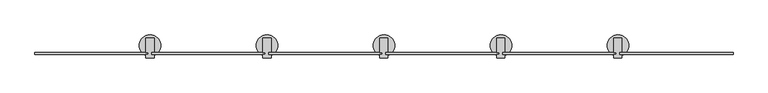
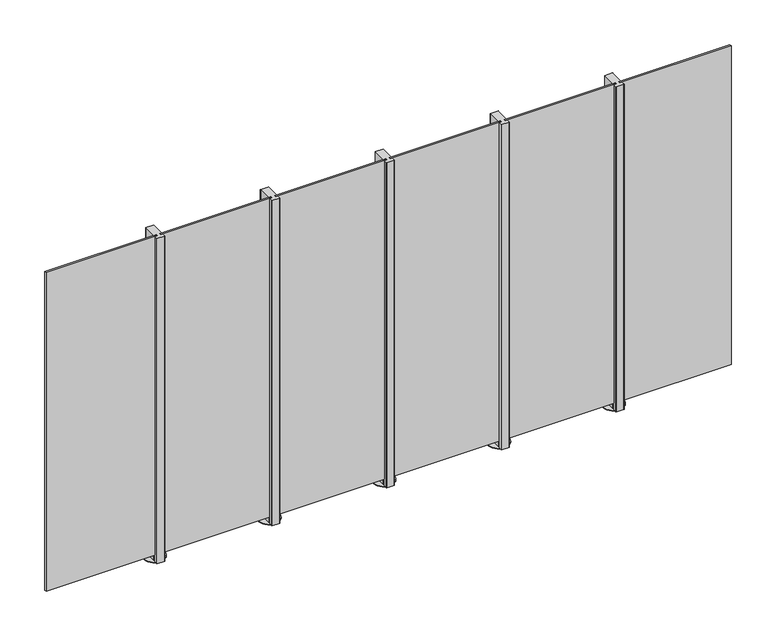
"""IFC4 building model written with IfcOpenShell, lengths in millimetres: railing geometry, TOP CONCRETE CORE_TOP MOUNT STRUC_GLASS_8'."""

from ifc_helpers import new_model, si_unit, point, frame, frame_2d, origin, origin_with_axes, place, context, project, spatial, polyline, circle_curve, trimmed, segment, composite_curve, outline, extrude, source, transform, mapped, element, save


def railing_44f263d3(model_context):
    return source(origin(), model_context, "Body", "SweptSolid", [
        extrude(outline(polyline([(93085.9101265, -69424.6903244), (93873.3101265, -69424.6903244), (93873.3101265, -69437.3903244), (93085.9101265, -69437.3903244), (93085.9101265, -69424.6903244)])), frame((0.0, 0.0, 50.8), z_axis=(0.0, 0.0, 1.0), x_axis=(1.0, 0.0, 0.0)), (0.0, 0.0, 1.0), 2387.6),
        extrude(outline(composite_curve([segment(trimmed(circle_curve(frame_2d((93073.2101265, -69376.6664948)), 75.6503116), [point((93073.2101265, -69452.3168064))], [point((93073.2101265, -69301.0161831))], False, "CARTESIAN"), True, "CONTINUOUS"), segment(trimmed(circle_curve(frame_2d((93073.2101265, -69376.6664948)), 75.6503116), [point((93073.2101265, -69301.0161831))], [point((93073.2101265, -69452.3168064))], False, "CARTESIAN"), True, "CONTINUOUS")], self_intersect=False)), origin_with_axes(), (0.0, 0.0, 1.0), 3.0),
        extrude(outline(composite_curve([segment(polyline([(93100.9984734, -69424.6903244), (93085.9101265, -69424.6903244), (93085.9101265, -69437.3903244), (93100.9984734, -69437.3903244), (93100.9984734, -69462.2901674)]), True, "CONTINUOUS"), segment(trimmed(circle_curve(frame_2d((93100.4984734, -69462.2901674)), 0.5), [point((93100.9984734, -69462.2901674))], [point((93100.4984734, -69462.7901674))], False, "CARTESIAN"), True, "CONTINUOUS"), segment(polyline([(93100.4984734, -69462.7901674), (93044.3484734, -69462.7901674)]), True, "CONTINUOUS"), segment(trimmed(circle_curve(frame_2d((93044.3484734, -69462.2901674)), 0.5), [point((93044.3484734, -69462.7901674))], [point((93043.8484734, -69462.2901674))], False, "CARTESIAN"), True, "CONTINUOUS"), segment(polyline([(93043.8484734, -69462.2901674), (93043.8484734, -69437.3903244), (93060.5101265, -69437.3903244), (93060.5101265, -69424.6903244), (93043.8484734, -69424.6903244), (93043.8484734, -69325.6661674)]), True, "CONTINUOUS"), segment(trimmed(circle_curve(frame_2d((93044.3484734, -69325.6661674)), 0.5), [point((93043.8484734, -69325.6661674))], [point((93044.3484734, -69325.1661674))], False, "CARTESIAN"), True, "CONTINUOUS"), segment(polyline([(93044.3484734, -69325.1661674), (93100.4984734, -69325.1661674)]), True, "CONTINUOUS"), segment(trimmed(circle_curve(frame_2d((93100.4984734, -69325.6661674)), 0.5), [point((93100.4984734, -69325.1661674))], [point((93100.9984734, -69325.6661674))], False, "CARTESIAN"), True, "CONTINUOUS"), segment(polyline([(93100.9984734, -69325.6661674), (93100.9984734, -69424.6903244)]), True, "CONTINUOUS")], self_intersect=False)), origin_with_axes(), (0.0, 0.0, 1.0), 2438.4),
        extrude(outline(polyline([(92273.1101265, -69424.6903244), (93060.5101265, -69424.6903244), (93060.5101265, -69437.3903244), (92273.1101265, -69437.3903244), (92273.1101265, -69424.6903244)])), frame((0.0, 0.0, 50.8), z_axis=(0.0, 0.0, 1.0), x_axis=(1.0, 0.0, 0.0)), (0.0, 0.0, 1.0), 2387.6),
        extrude(outline(composite_curve([segment(trimmed(circle_curve(frame_2d((92260.4101265, -69376.6664948)), 75.6503116), [point((92260.4101265, -69452.3168064))], [point((92260.4101265, -69301.0161831))], False, "CARTESIAN"), True, "CONTINUOUS"), segment(trimmed(circle_curve(frame_2d((92260.4101265, -69376.6664948)), 75.6503116), [point((92260.4101265, -69301.0161831))], [point((92260.4101265, -69452.3168064))], False, "CARTESIAN"), True, "CONTINUOUS")], self_intersect=False)), origin_with_axes(), (0.0, 0.0, 1.0), 3.0),
        extrude(outline(composite_curve([segment(polyline([(92288.1984734, -69424.6903244), (92273.1101265, -69424.6903244), (92273.1101265, -69437.3903244), (92288.1984734, -69437.3903244), (92288.1984734, -69462.2901674)]), True, "CONTINUOUS"), segment(trimmed(circle_curve(frame_2d((92287.6984734, -69462.2901674)), 0.5), [point((92288.1984734, -69462.2901674))], [point((92287.6984734, -69462.7901674))], False, "CARTESIAN"), True, "CONTINUOUS"), segment(polyline([(92287.6984734, -69462.7901674), (92231.5484734, -69462.7901674)]), True, "CONTINUOUS"), segment(trimmed(circle_curve(frame_2d((92231.5484734, -69462.2901674)), 0.5), [point((92231.5484734, -69462.7901674))], [point((92231.0484734, -69462.2901674))], False, "CARTESIAN"), True, "CONTINUOUS"), segment(polyline([(92231.0484734, -69462.2901674), (92231.0484734, -69437.3903244), (92247.7101265, -69437.3903244), (92247.7101265, -69424.6903244), (92231.0484734, -69424.6903244), (92231.0484734, -69325.6661674)]), True, "CONTINUOUS"), segment(trimmed(circle_curve(frame_2d((92231.5484734, -69325.6661674)), 0.5), [point((92231.0484734, -69325.6661674))], [point((92231.5484734, -69325.1661674))], False, "CARTESIAN"), True, "CONTINUOUS"), segment(polyline([(92231.5484734, -69325.1661674), (92287.6984734, -69325.1661674)]), True, "CONTINUOUS"), segment(trimmed(circle_curve(frame_2d((92287.6984734, -69325.6661674)), 0.5), [point((92287.6984734, -69325.1661674))], [point((92288.1984734, -69325.6661674))], False, "CARTESIAN"), True, "CONTINUOUS"), segment(polyline([(92288.1984734, -69325.6661674), (92288.1984734, -69424.6903244)]), True, "CONTINUOUS")], self_intersect=False)), origin_with_axes(), (0.0, 0.0, 1.0), 2438.4),
        extrude(outline(polyline([(91460.3101265, -69424.6903244), (92247.7101265, -69424.6903244), (92247.7101265, -69437.3903244), (91460.3101265, -69437.3903244), (91460.3101265, -69424.6903244)])), frame((0.0, 0.0, 50.8), z_axis=(0.0, 0.0, 1.0), x_axis=(1.0, 0.0, 0.0)), (0.0, 0.0, 1.0), 2387.6),
        extrude(outline(composite_curve([segment(trimmed(circle_curve(frame_2d((91447.6101265, -69376.6664948)), 75.6503116), [point((91447.6101265, -69452.3168064))], [point((91447.6101265, -69301.0161831))], False, "CARTESIAN"), True, "CONTINUOUS"), segment(trimmed(circle_curve(frame_2d((91447.6101265, -69376.6664948)), 75.6503116), [point((91447.6101265, -69301.0161831))], [point((91447.6101265, -69452.3168064))], False, "CARTESIAN"), True, "CONTINUOUS")], self_intersect=False)), origin_with_axes(), (0.0, 0.0, 1.0), 3.0),
        extrude(outline(composite_curve([segment(polyline([(91475.3984734, -69424.6903244), (91460.3101265, -69424.6903244), (91460.3101265, -69437.3903244), (91475.3984734, -69437.3903244), (91475.3984734, -69462.2901674)]), True, "CONTINUOUS"), segment(trimmed(circle_curve(frame_2d((91474.8984734, -69462.2901674)), 0.5), [point((91475.3984734, -69462.2901674))], [point((91474.8984734, -69462.7901674))], False, "CARTESIAN"), True, "CONTINUOUS"), segment(polyline([(91474.8984734, -69462.7901674), (91418.7484734, -69462.7901674)]), True, "CONTINUOUS"), segment(trimmed(circle_curve(frame_2d((91418.7484734, -69462.2901674)), 0.5), [point((91418.7484734, -69462.7901674))], [point((91418.2484734, -69462.2901674))], False, "CARTESIAN"), True, "CONTINUOUS"), segment(polyline([(91418.2484734, -69462.2901674), (91418.2484734, -69437.3903244), (91434.9101265, -69437.3903244), (91434.9101265, -69424.6903244), (91418.2484734, -69424.6903244), (91418.2484734, -69325.6661674)]), True, "CONTINUOUS"), segment(trimmed(circle_curve(frame_2d((91418.7484734, -69325.6661674)), 0.5), [point((91418.2484734, -69325.6661674))], [point((91418.7484734, -69325.1661674))], False, "CARTESIAN"), True, "CONTINUOUS"), segment(polyline([(91418.7484734, -69325.1661674), (91474.8984734, -69325.1661674)]), True, "CONTINUOUS"), segment(trimmed(circle_curve(frame_2d((91474.8984734, -69325.6661674)), 0.5), [point((91474.8984734, -69325.1661674))], [point((91475.3984734, -69325.6661674))], False, "CARTESIAN"), True, "CONTINUOUS"), segment(polyline([(91475.3984734, -69325.6661674), (91475.3984734, -69424.6903244)]), True, "CONTINUOUS")], self_intersect=False)), origin_with_axes(), (0.0, 0.0, 1.0), 2438.4),
        extrude(outline(polyline([(90647.5101265, -69424.6903244), (91434.9101265, -69424.6903244), (91434.9101265, -69437.3903244), (90647.5101265, -69437.3903244), (90647.5101265, -69424.6903244)])), frame((0.0, 0.0, 50.8), z_axis=(0.0, 0.0, 1.0), x_axis=(1.0, 0.0, 0.0)), (0.0, 0.0, 1.0), 2387.6),
        extrude(outline(composite_curve([segment(trimmed(circle_curve(frame_2d((90634.8101265, -69376.6664948)), 75.6503116), [point((90634.8101265, -69452.3168064))], [point((90634.8101265, -69301.0161831))], False, "CARTESIAN"), True, "CONTINUOUS"), segment(trimmed(circle_curve(frame_2d((90634.8101265, -69376.6664948)), 75.6503116), [point((90634.8101265, -69301.0161831))], [point((90634.8101265, -69452.3168064))], False, "CARTESIAN"), True, "CONTINUOUS")], self_intersect=False)), origin_with_axes(), (0.0, 0.0, 1.0), 3.0),
        extrude(outline(composite_curve([segment(polyline([(90662.5984734, -69424.6903244), (90647.5101265, -69424.6903244), (90647.5101265, -69437.3903244), (90662.5984734, -69437.3903244), (90662.5984734, -69462.2901674)]), True, "CONTINUOUS"), segment(trimmed(circle_curve(frame_2d((90662.0984734, -69462.2901674)), 0.5), [point((90662.5984734, -69462.2901674))], [point((90662.0984734, -69462.7901674))], False, "CARTESIAN"), True, "CONTINUOUS"), segment(polyline([(90662.0984734, -69462.7901674), (90605.9484734, -69462.7901674)]), True, "CONTINUOUS"), segment(trimmed(circle_curve(frame_2d((90605.9484734, -69462.2901674)), 0.5), [point((90605.9484734, -69462.7901674))], [point((90605.4484734, -69462.2901674))], False, "CARTESIAN"), True, "CONTINUOUS"), segment(polyline([(90605.4484734, -69462.2901674), (90605.4484734, -69437.3903244), (90622.1101265, -69437.3903244), (90622.1101265, -69424.6903244), (90605.4484734, -69424.6903244), (90605.4484734, -69325.6661674)]), True, "CONTINUOUS"), segment(trimmed(circle_curve(frame_2d((90605.9484734, -69325.6661674)), 0.5), [point((90605.4484734, -69325.6661674))], [point((90605.9484734, -69325.1661674))], False, "CARTESIAN"), True, "CONTINUOUS"), segment(polyline([(90605.9484734, -69325.1661674), (90662.0984734, -69325.1661674)]), True, "CONTINUOUS"), segment(trimmed(circle_curve(frame_2d((90662.0984734, -69325.6661674)), 0.5), [point((90662.0984734, -69325.1661674))], [point((90662.5984734, -69325.6661674))], False, "CARTESIAN"), True, "CONTINUOUS"), segment(polyline([(90662.5984734, -69325.6661674), (90662.5984734, -69424.6903244)]), True, "CONTINUOUS")], self_intersect=False)), origin_with_axes(), (0.0, 0.0, 1.0), 2438.4),
        extrude(outline(polyline([(89834.7101265, -69424.6903244), (90622.1101265, -69424.6903244), (90622.1101265, -69437.3903244), (89834.7101265, -69437.3903244), (89834.7101265, -69424.6903244)])), frame((0.0, 0.0, 50.8), z_axis=(0.0, 0.0, 1.0), x_axis=(1.0, 0.0, 0.0)), (0.0, 0.0, 1.0), 2387.6),
        extrude(outline(composite_curve([segment(trimmed(circle_curve(frame_2d((89822.0101265, -69376.6664948)), 75.6503116), [point((89822.0101265, -69452.3168064))], [point((89822.0101265, -69301.0161831))], False, "CARTESIAN"), True, "CONTINUOUS"), segment(trimmed(circle_curve(frame_2d((89822.0101265, -69376.6664948)), 75.6503116), [point((89822.0101265, -69301.0161831))], [point((89822.0101265, -69452.3168064))], False, "CARTESIAN"), True, "CONTINUOUS")], self_intersect=False)), origin_with_axes(), (0.0, 0.0, 1.0), 3.0),
        extrude(outline(composite_curve([segment(polyline([(89849.7984734, -69424.6903244), (89834.7101265, -69424.6903244), (89834.7101265, -69437.3903244), (89849.7984734, -69437.3903244), (89849.7984734, -69462.2901674)]), True, "CONTINUOUS"), segment(trimmed(circle_curve(frame_2d((89849.2984734, -69462.2901674)), 0.5), [point((89849.7984734, -69462.2901674))], [point((89849.2984734, -69462.7901674))], False, "CARTESIAN"), True, "CONTINUOUS"), segment(polyline([(89849.2984734, -69462.7901674), (89793.1484734, -69462.7901674)]), True, "CONTINUOUS"), segment(trimmed(circle_curve(frame_2d((89793.1484734, -69462.2901674)), 0.5), [point((89793.1484734, -69462.7901674))], [point((89792.6484734, -69462.2901674))], False, "CARTESIAN"), True, "CONTINUOUS"), segment(polyline([(89792.6484734, -69462.2901674), (89792.6484734, -69437.3903244), (89809.3101265, -69437.3903244), (89809.3101265, -69424.6903244), (89792.6484734, -69424.6903244), (89792.6484734, -69325.6661674)]), True, "CONTINUOUS"), segment(trimmed(circle_curve(frame_2d((89793.1484734, -69325.6661674)), 0.5), [point((89792.6484734, -69325.6661674))], [point((89793.1484734, -69325.1661674))], False, "CARTESIAN"), True, "CONTINUOUS"), segment(polyline([(89793.1484734, -69325.1661674), (89849.2984734, -69325.1661674)]), True, "CONTINUOUS"), segment(trimmed(circle_curve(frame_2d((89849.2984734, -69325.6661674)), 0.5), [point((89849.2984734, -69325.1661674))], [point((89849.7984734, -69325.6661674))], False, "CARTESIAN"), True, "CONTINUOUS"), segment(polyline([(89849.7984734, -69325.6661674), (89849.7984734, -69424.6903244)]), True, "CONTINUOUS")], self_intersect=False)), origin_with_axes(), (0.0, 0.0, 1.0), 2438.4),
        extrude(outline(polyline([(89021.9101265, -69424.6903244), (89809.3101265, -69424.6903244), (89809.3101265, -69437.3903244), (89021.9101265, -69437.3903244), (89021.9101265, -69424.6903244)])), frame((0.0, 0.0, 50.8), z_axis=(0.0, 0.0, 1.0), x_axis=(1.0, 0.0, 0.0)), (0.0, 0.0, 1.0), 2387.6),
    ])


if __name__ == "__main__":
    model = new_model("IFC4")
    model_context = context("Model", 3, world=origin())
    ifc_project = project(units=[si_unit("LENGTHUNIT", "METRE", prefix="MILLI")], contexts=[model_context])
    site = spatial("IfcSite", under=ifc_project)
    building = spatial("IfcBuilding", under=site)
    placement = place(None, origin())
    railing_shape = railing_44f263d3(model_context)
    element("IfcRailing", 1, ObjectType="TOP CONCRETE CORE_TOP MOUNT STRUC_GLASS_8'", at=placement, inside=building, context=model_context, shape_type="MappedRepresentation", body=[
        mapped(railing_shape, transform((0.0, 0.0, 0.0), x_axis=(1.0, 0.0, 0.0), y_axis=(0.0, 1.0, 0.0), z_axis=(0.0, 0.0, 1.0))),
    ])
    save(model, "model.ifc")
